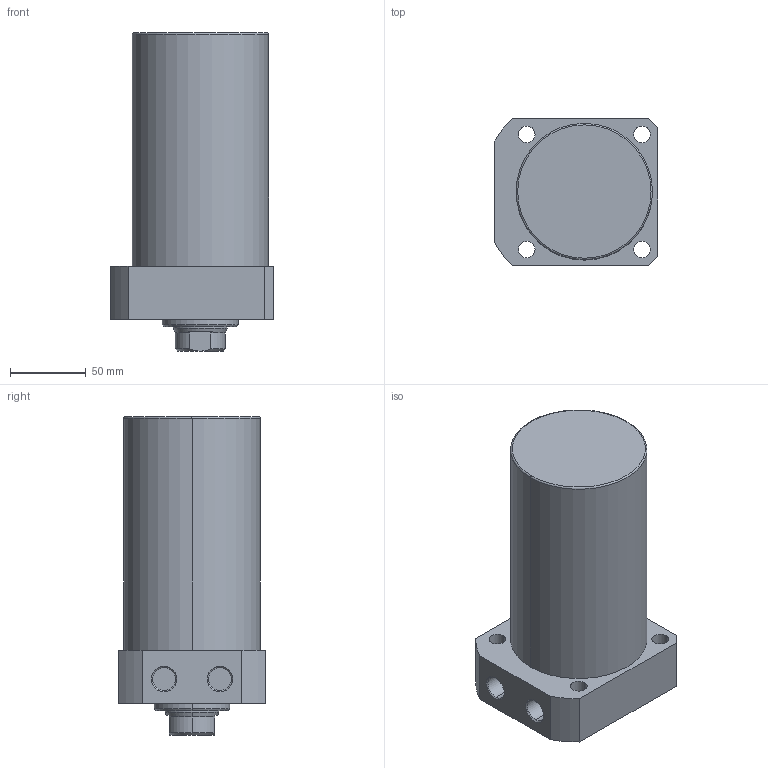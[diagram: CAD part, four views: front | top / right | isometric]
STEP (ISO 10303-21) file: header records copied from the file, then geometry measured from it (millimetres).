
FILE_DESCRIPTION (( 'STEP AP203' ), '1' );
FILE_NAME ('CLLR-090CA-110.STEP', '2019-12-18T06:26:04', ( '' ), ( '' ), 'SwSTEP 2.0', 'SolidWorks 2015', '' );
FILE_SCHEMA (( 'CONFIG_CONTROL_DESIGN' ));
Length unit declared in the file: millimetre
Products named in the file (1): CLLR-090CA-110
Bounding box: 108 x 97 x 210 mm (x, y, z)
Volume: 1328611.1 mm3; surface area: 88629.9 mm2
Topology: 1 solids, 1 shells, 65 faces, 151 edges, 94 vertices
Faces by surface type: cylinder 29, plane 19, cone 15, torus 2
Entity records: 1977 total; most frequent: CARTESIAN_POINT 357, DIRECTION 350, ORIENTED_EDGE 298, EDGE_CURVE 149, AXIS2_PLACEMENT_3D 143, VERTEX_POINT 94, EDGE_LOOP 81, CIRCLE 77
